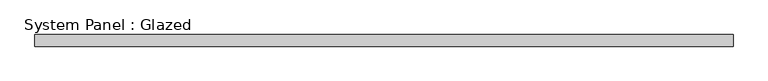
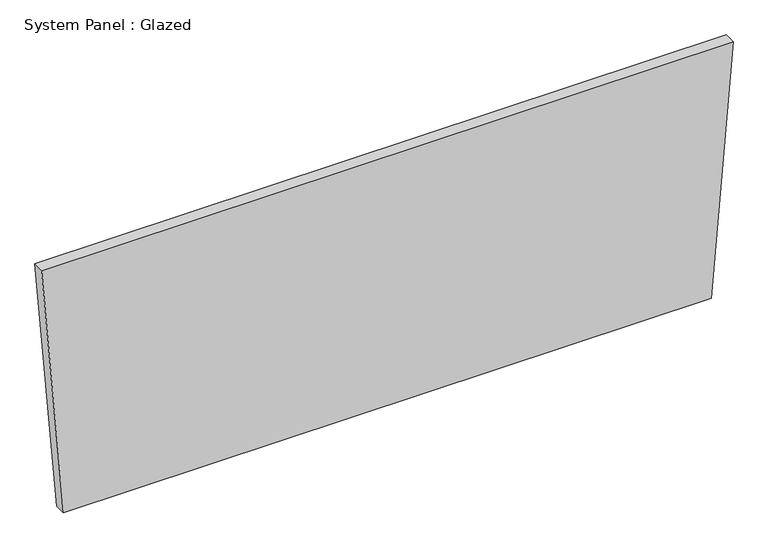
"""IFC4 building model written with IfcOpenShell, lengths in millimetres: plate geometry, System Panel : Glazed."""

from ifc_helpers import new_model, si_unit, frame, origin, place, context, project, spatial, polyline, outline, extrude, source, transform, mapped, element, save


def system_panel_glazed_e1e187d2(model_context):
    return source(origin(), model_context, "Body", "SweptSolid", [
        extrude(outline(polyline([(0.0, -715.1421438), (0.0, 715.1421438), (582.1079843, 763.4923787), (582.1079843, -763.4923787), (0.0, -715.1421438)])), frame((0.0, 19.05, 0.0), z_axis=(0.0, 1.0, 0.0), x_axis=(0.0, 0.0, 1.0)), (0.0, 0.0, 1.0), 25.4),
    ])


if __name__ == "__main__":
    model = new_model("IFC4")
    model_context = context("Model", 3, world=origin())
    ifc_project = project(units=[si_unit("LENGTHUNIT", "METRE", prefix="MILLI")], contexts=[model_context])
    site = spatial("IfcSite", under=ifc_project)
    building = spatial("IfcBuilding", under=site)
    placement = place(None, origin())
    system_panel_glazed_shape = system_panel_glazed_e1e187d2(model_context)
    element("IfcPlate", 1, ObjectType="System Panel : Glazed", at=placement, inside=building, context=model_context, shape_type="MappedRepresentation", body=[
        mapped(system_panel_glazed_shape, transform((0.0, 0.0, 0.0), x_axis=(1.0, 0.0, 0.0), y_axis=(0.0, 1.0, 0.0), z_axis=(0.0, 0.0, 1.0))),
    ])
    save(model, "model.ifc")
